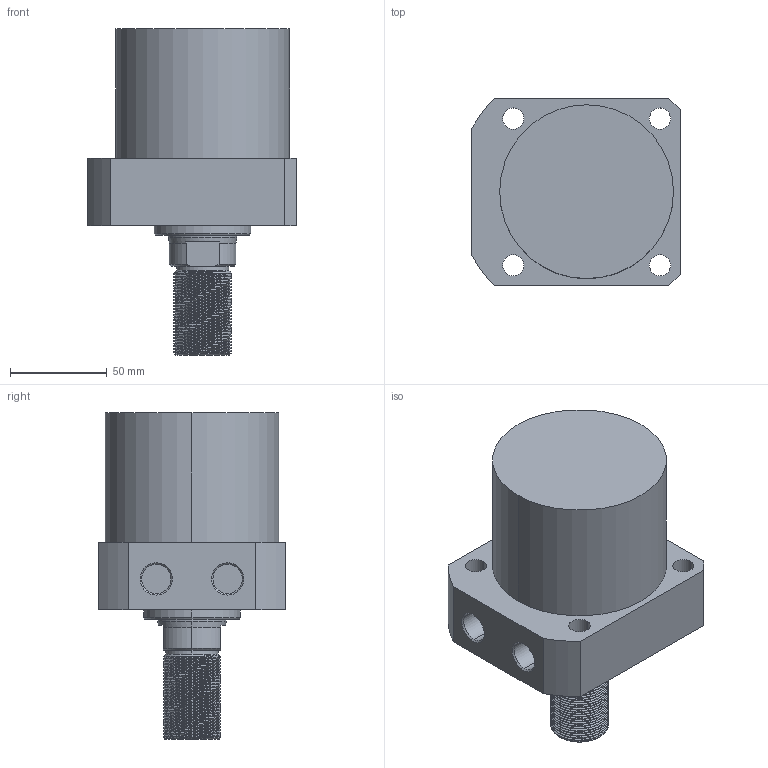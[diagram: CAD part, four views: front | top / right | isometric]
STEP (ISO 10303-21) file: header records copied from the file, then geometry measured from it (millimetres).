
FILE_DESCRIPTION (( 'STEP AP214' ), '1' );
FILE_NAME ('CLLR-090CT-045.STEP', '2020-01-09T06:34:25', ( 'Windows' ), ( 'Microsoft' ), 'SwSTEP 2.0', 'SolidWorks 2015', '' );
FILE_SCHEMA (( 'AUTOMOTIVE_DESIGN' ));
Length unit declared in the file: millimetre
Products named in the file (1): CLLR-090CT-045
Bounding box: 108 x 97 x 169 mm (x, y, z)
Volume: 818243.5 mm3; surface area: 68896.3 mm2
Topology: 1 solids, 1 shells, 123 faces, 327 edges, 214 vertices
Faces by surface type: cylinder 86, plane 20, cone 15, bspline 2
Entity records: 6976 total; most frequent: CARTESIAN_POINT 4170, ORIENTED_EDGE 654, DIRECTION 518, EDGE_CURVE 327, VERTEX_POINT 214, AXIS2_PLACEMENT_3D 198, EDGE_LOOP 139, FACE_OUTER_BOUND 123
